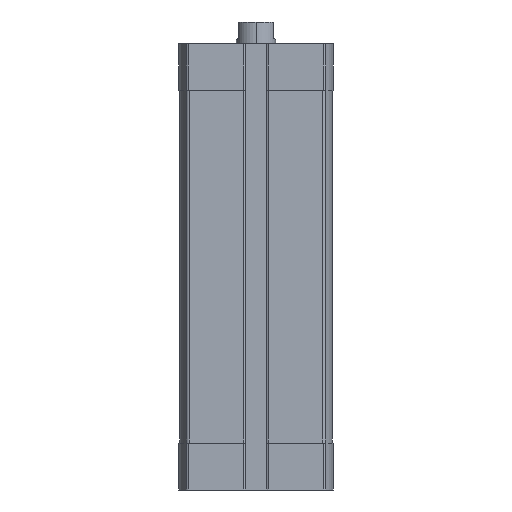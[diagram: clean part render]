
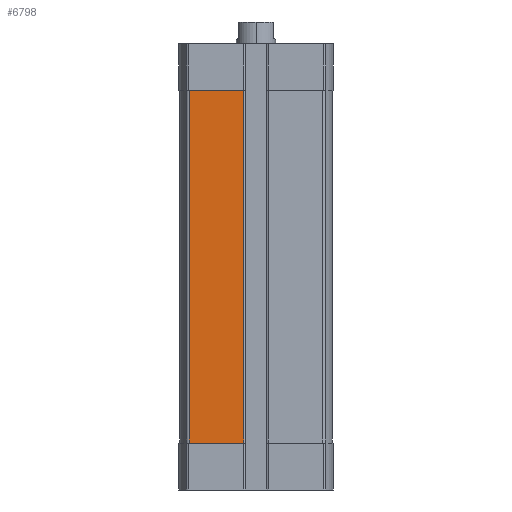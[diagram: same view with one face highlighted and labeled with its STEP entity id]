
A CAD part, left-side view. The second image highlights one B-rep face of the part: STEP entity #6798.
In plain terms, the highlighted planar face has unit normal (-1, 0, 0).
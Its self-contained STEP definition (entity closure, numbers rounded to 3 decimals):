
#43 = CARTESIAN_POINT ( 'NONE',  ( -19.5, 17.091, -12. ) ) ;
#79 = VERTEX_POINT ( 'NONE', #1146 ) ;
#390 = EDGE_CURVE ( 'NONE', #2053, #6053, #4254, .T. ) ;
#478 = EDGE_LOOP ( 'NONE', ( #1286, #3915, #10701, #532 ) ) ;
#513 = DIRECTION ( 'NONE',  ( -1., 0., 0. ) ) ;
#532 = ORIENTED_EDGE ( 'NONE', *, *, #390, .T. ) ;
#1146 = CARTESIAN_POINT ( 'NONE',  ( -19.5, 3.1, -102. ) ) ;
#1286 = ORIENTED_EDGE ( 'NONE', *, *, #2697, .T. ) ;
#1967 = FACE_OUTER_BOUND ( 'NONE', #478, .T. ) ;
#2031 = CARTESIAN_POINT ( 'NONE',  ( -19.5, 3.1, -12. ) ) ;
#2053 = VERTEX_POINT ( 'NONE', #43 ) ;
#2518 = CARTESIAN_POINT ( 'NONE',  ( -19.5, 17.091, -102. ) ) ;
#2611 = LINE ( 'NONE', #11324, #8051 ) ;
#2681 = LINE ( 'NONE', #4165, #7784 ) ;
#2697 = EDGE_CURVE ( 'NONE', #6053, #79, #2681, .T. ) ;
#3701 = LINE ( 'NONE', #4710, #6097 ) ;
#3915 = ORIENTED_EDGE ( 'NONE', *, *, #6167, .T. ) ;
#3938 = VECTOR ( 'NONE', #9932, 1000. ) ;
#4165 = CARTESIAN_POINT ( 'NONE',  ( -19.5, 17.091, -102. ) ) ;
#4177 = DIRECTION ( 'NONE',  ( 0., 0., 1. ) ) ;
#4254 = LINE ( 'NONE', #12268, #3938 ) ;
#4554 = PLANE ( 'NONE',  #11408 ) ;
#4710 = CARTESIAN_POINT ( 'NONE',  ( -19.5, 0., -12. ) ) ;
#6053 = VERTEX_POINT ( 'NONE', #12128 ) ;
#6097 = VECTOR ( 'NONE', #6777, 1000. ) ;
#6167 = EDGE_CURVE ( 'NONE', #79, #8169, #2611, .T. ) ;
#6777 = DIRECTION ( 'NONE',  ( 0., 1., 0. ) ) ;
#6798 = ADVANCED_FACE ( 'NONE', ( #1967 ), #4554, .T. ) ;
#7646 = DIRECTION ( 'NONE',  ( 0., 0., 1. ) ) ;
#7784 = VECTOR ( 'NONE', #11308, 1000. ) ;
#8051 = VECTOR ( 'NONE', #4177, 1000. ) ;
#8169 = VERTEX_POINT ( 'NONE', #2031 ) ;
#9932 = DIRECTION ( 'NONE',  ( 0., 0., -1. ) ) ;
#10701 = ORIENTED_EDGE ( 'NONE', *, *, #13170, .T. ) ;
#11308 = DIRECTION ( 'NONE',  ( 0., -1., 0. ) ) ;
#11324 = CARTESIAN_POINT ( 'NONE',  ( -19.5, 3.1, -102. ) ) ;
#11408 = AXIS2_PLACEMENT_3D ( 'NONE', #2518, #513, #7646 ) ;
#12128 = CARTESIAN_POINT ( 'NONE',  ( -19.5, 17.091, -102. ) ) ;
#12268 = CARTESIAN_POINT ( 'NONE',  ( -19.5, 17.091, -102. ) ) ;
#13170 = EDGE_CURVE ( 'NONE', #8169, #2053, #3701, .T. ) ;
